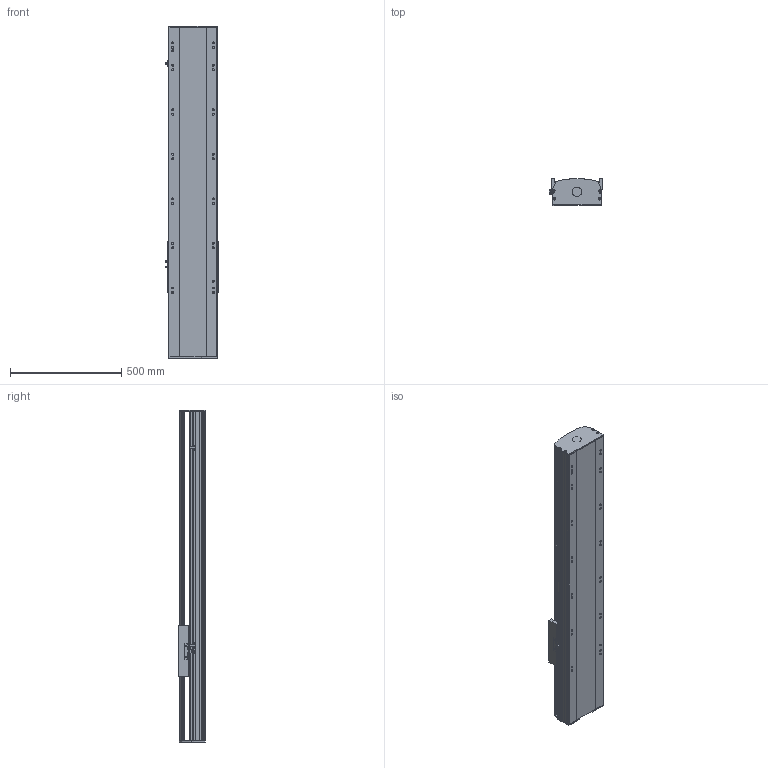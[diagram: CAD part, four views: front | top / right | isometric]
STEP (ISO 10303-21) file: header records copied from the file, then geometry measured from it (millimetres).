
FILE_DESCRIPTION (( 'STEP AP214' ), '1' );
FILE_NAME ('QTH22-900-M-P75.STEP', '2021-11-13T10:56:51', ( '' ), ( '' ), 'SwSTEP 2.0', 'SolidWorks 2020', '' );
FILE_SCHEMA (( 'AUTOMOTIVE_DESIGN' ));
Length unit declared in the file: millimetre
Products named in the file (5): QTH22-900-M-P75; 葩璃 QTH22-M-001 菁釱MZ-220-01^QTH22-M-P75; 葩璃 pm-t65-672^QTH22-M-P75; 葩璃 QTH22-M-002 奻裔MZ-220-02^QTH22-M-P75; 葩璃 QTH22-BC-005 賑釱MZ-220-03^QTH22-M-P75_SFA25
Assembly tree (6 placements, depth 2):
  QTH22-900-M-P75
    葩璃 QTH22-M-001 菁釱MZ-220-01^QTH22-M-P75
    葩璃 QTH22-M-002 奻裔MZ-220-02^QTH22-M-P75
    葩璃 QTH22-BC-005 賑釱MZ-220-03^QTH22-M-P75_SFA25
    葩璃 pm-t65-672^QTH22-M-P75  x3
Bounding box: 238.7 x 122 x 1490 mm (x, y, z)
Volume: 20569094.2 mm3; surface area: 1989518.8 mm2
Topology: 9 solids, 9 shells, 879 faces, 2375 edges, 1526 vertices
Faces by surface type: plane 506, cylinder 297, cone 76
Entity records: 21518 total; most frequent: CARTESIAN_POINT 3719, DIRECTION 3539, ORIENTED_EDGE 3354, EDGE_CURVE 1677, AXIS2_PLACEMENT_3D 1226, VERTEX_POINT 1102, VECTOR 1087, LINE 1087
